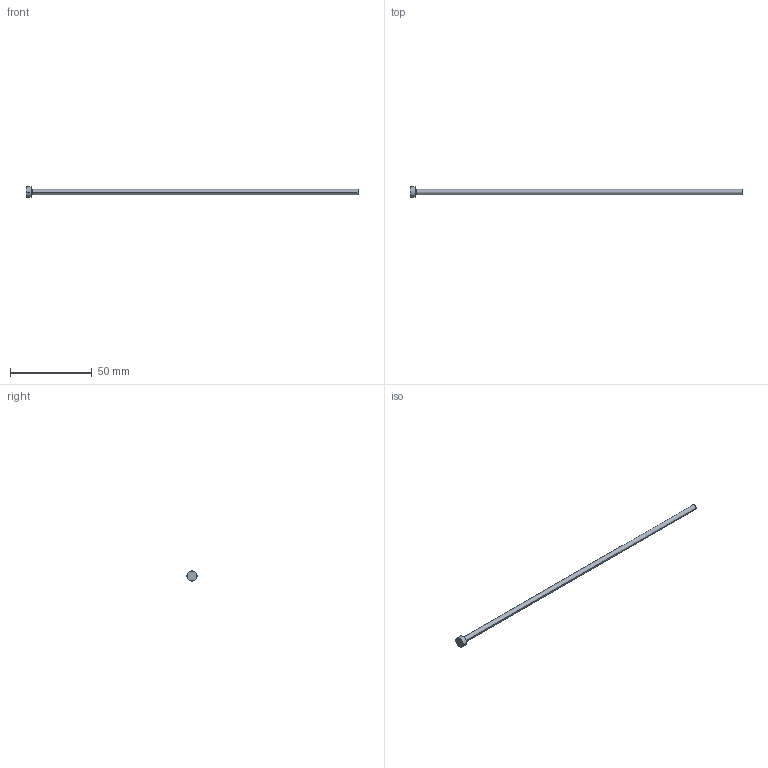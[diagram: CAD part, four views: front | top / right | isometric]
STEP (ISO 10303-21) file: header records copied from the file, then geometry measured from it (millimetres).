
FILE_DESCRIPTION (( 'STEP AP214' ), '1' );
FILE_NAME ('P9-8.STEP', '2020-03-11T17:30:34', ( '' ), ( '' ), 'SwSTEP 2.0', 'SolidWorks 2018', '' );
FILE_SCHEMA (( 'AUTOMOTIVE_DESIGN' ));
Length unit declared in the file: inch
Products named in the file (1): P9-8
Bounding box: 203.2 x 6.35 x 6.35 mm (x, y, z)
Volume: 1677.8 mm3; surface area: 2111.7 mm2
Topology: 1 solids, 1 shells, 13 faces, 24 edges, 14 vertices
Faces by surface type: cone 4, cylinder 4, plane 3, torus 2
Entity records: 366 total; most frequent: DIRECTION 68, CARTESIAN_POINT 52, ORIENTED_EDGE 48, AXIS2_PLACEMENT_3D 30, EDGE_CURVE 24, CIRCLE 16, EDGE_LOOP 14, VERTEX_POINT 14
